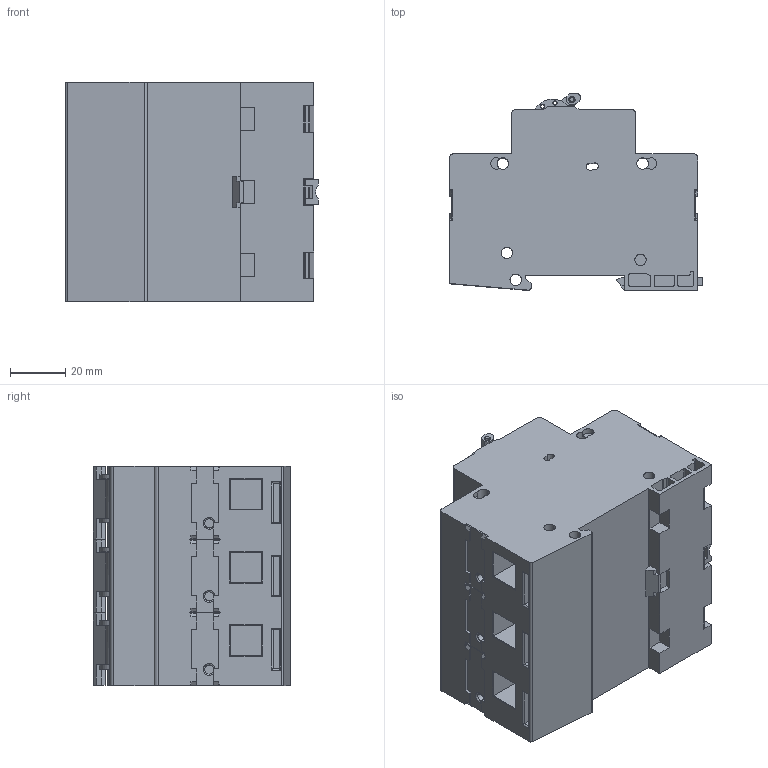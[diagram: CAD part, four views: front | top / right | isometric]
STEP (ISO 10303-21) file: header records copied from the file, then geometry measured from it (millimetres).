
FILE_DESCRIPTION (( 'STEP AP214' ), '1' );
FILE_NAME ('AST_3_zj_02.step', '2013-08-26T10:18:54', ( '' ), ( '' ), 'SwSTEP 2.0', 'SolidWorks 2011', '' );
FILE_SCHEMA (( 'AUTOMOTIVE_DESIGN' ));
Length unit declared in the file: millimetre
Products named in the file (1): AST_3_zj_02
Bounding box: 91.7 x 71.47 x 79.5 mm (x, y, z)
Volume: 370051.8 mm3; surface area: 54050.4 mm2
Topology: 1 solids, 8 shells, 1037 faces, 2775 edges, 1820 vertices
Faces by surface type: plane 612, cylinder 362, bspline 51, cone 12
Entity records: 47015 total; most frequent: CARTESIAN_POINT 9884, ORIENTED_EDGE 5550, DIRECTION 5126, EDGE_CURVE 2775, VERTEX_POINT 1820, LINE 1760, VECTOR 1760, AXIS2_PLACEMENT_3D 1683
